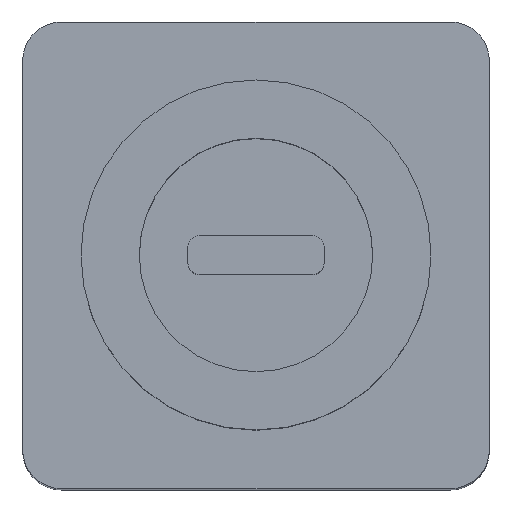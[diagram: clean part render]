
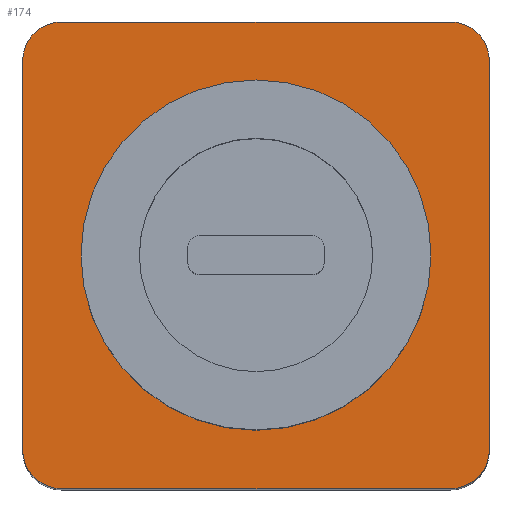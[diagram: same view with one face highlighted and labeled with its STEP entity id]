
A CAD part, top view. The second image highlights one B-rep face of the part: STEP entity #174.
In plain terms, the highlighted planar face has unit normal (0, 0, 1).
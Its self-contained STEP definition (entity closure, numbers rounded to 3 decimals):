
#24 = VERTEX_POINT('',#25);
#25 = CARTESIAN_POINT('',(6.,-5.,20.));
#31 = EDGE_CURVE('',#24,#32,#34,.T.);
#32 = VERTEX_POINT('',#33);
#33 = CARTESIAN_POINT('',(6.,5.,20.));
#34 = LINE('',#35,#36);
#35 = CARTESIAN_POINT('',(6.,-5.,20.));
#36 = VECTOR('',#37,1.);
#37 = DIRECTION('',(0.,1.,0.));
#64 = VERTEX_POINT('',#65);
#65 = CARTESIAN_POINT('',(5.,-6.,20.));
#71 = EDGE_CURVE('',#64,#24,#72,.T.);
#72 = CIRCLE('',#73,1.);
#73 = AXIS2_PLACEMENT_3D('',#74,#75,#76);
#74 = CARTESIAN_POINT('',(5.,-5.,20.));
#75 = DIRECTION('',(0.,0.,1.));
#76 = DIRECTION('',(1.,0.,0.));
#95 = EDGE_CURVE('',#32,#96,#98,.T.);
#96 = VERTEX_POINT('',#97);
#97 = CARTESIAN_POINT('',(5.,6.,20.));
#98 = CIRCLE('',#99,1.);
#99 = AXIS2_PLACEMENT_3D('',#100,#101,#102);
#100 = CARTESIAN_POINT('',(5.,5.,20.));
#101 = DIRECTION('',(0.,0.,1.));
#102 = DIRECTION('',(1.,0.,0.));
#174 = ADVANCED_FACE('',(#175,#220),#231,.T.);
#175 = FACE_BOUND('',#176,.T.);
#176 = EDGE_LOOP('',(#177,#178,#179,#187,#196,#204,#213,#219));
#177 = ORIENTED_EDGE('',*,*,#31,.T.);
#178 = ORIENTED_EDGE('',*,*,#95,.T.);
#179 = ORIENTED_EDGE('',*,*,#180,.T.);
#180 = EDGE_CURVE('',#96,#181,#183,.T.);
#181 = VERTEX_POINT('',#182);
#182 = CARTESIAN_POINT('',(-5.,6.,20.));
#183 = LINE('',#184,#185);
#184 = CARTESIAN_POINT('',(5.,6.,20.));
#185 = VECTOR('',#186,1.);
#186 = DIRECTION('',(-1.,0.,0.));
#187 = ORIENTED_EDGE('',*,*,#188,.T.);
#188 = EDGE_CURVE('',#181,#189,#191,.T.);
#189 = VERTEX_POINT('',#190);
#190 = CARTESIAN_POINT('',(-6.,5.,20.));
#191 = CIRCLE('',#192,1.);
#192 = AXIS2_PLACEMENT_3D('',#193,#194,#195);
#193 = CARTESIAN_POINT('',(-5.,5.,20.));
#194 = DIRECTION('',(0.,0.,1.));
#195 = DIRECTION('',(1.,0.,0.));
#196 = ORIENTED_EDGE('',*,*,#197,.T.);
#197 = EDGE_CURVE('',#189,#198,#200,.T.);
#198 = VERTEX_POINT('',#199);
#199 = CARTESIAN_POINT('',(-6.,-5.,20.));
#200 = LINE('',#201,#202);
#201 = CARTESIAN_POINT('',(-6.,5.,20.));
#202 = VECTOR('',#203,1.);
#203 = DIRECTION('',(0.,-1.,0.));
#204 = ORIENTED_EDGE('',*,*,#205,.T.);
#205 = EDGE_CURVE('',#198,#206,#208,.T.);
#206 = VERTEX_POINT('',#207);
#207 = CARTESIAN_POINT('',(-5.,-6.,20.));
#208 = CIRCLE('',#209,1.);
#209 = AXIS2_PLACEMENT_3D('',#210,#211,#212);
#210 = CARTESIAN_POINT('',(-5.,-5.,20.));
#211 = DIRECTION('',(0.,0.,1.));
#212 = DIRECTION('',(1.,0.,0.));
#213 = ORIENTED_EDGE('',*,*,#214,.T.);
#214 = EDGE_CURVE('',#206,#64,#215,.T.);
#215 = LINE('',#216,#217);
#216 = CARTESIAN_POINT('',(-5.,-6.,20.));
#217 = VECTOR('',#218,1.);
#218 = DIRECTION('',(1.,0.,0.));
#219 = ORIENTED_EDGE('',*,*,#71,.T.);
#220 = FACE_BOUND('',#221,.T.);
#221 = EDGE_LOOP('',(#222));
#222 = ORIENTED_EDGE('',*,*,#223,.F.);
#223 = EDGE_CURVE('',#224,#224,#226,.T.);
#224 = VERTEX_POINT('',#225);
#225 = CARTESIAN_POINT('',(4.5,0.,20.));
#226 = CIRCLE('',#227,4.5);
#227 = AXIS2_PLACEMENT_3D('',#228,#229,#230);
#228 = CARTESIAN_POINT('',(0.,0.,20.));
#229 = DIRECTION('',(0.,0.,1.));
#230 = DIRECTION('',(1.,0.,0.));
#231 = PLANE('',#232);
#232 = AXIS2_PLACEMENT_3D('',#233,#234,#235);
#233 = CARTESIAN_POINT('',(0.,0.,20.));
#234 = DIRECTION('',(0.,0.,1.));
#235 = DIRECTION('',(1.,0.,0.));
